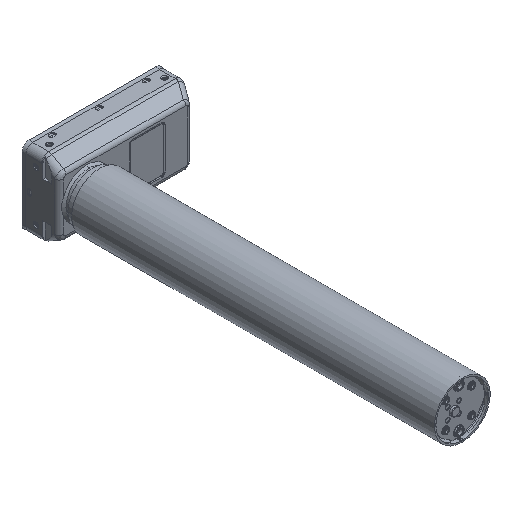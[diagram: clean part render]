
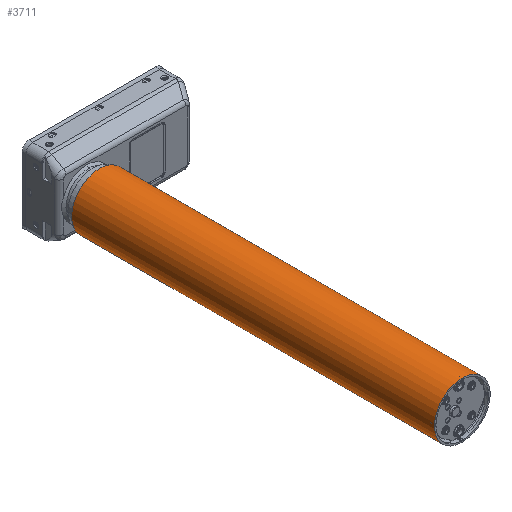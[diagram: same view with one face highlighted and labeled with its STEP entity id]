
A CAD part, isometric view. The second image highlights one B-rep face of the part: STEP entity #3711.
In plain terms, the highlighted cylindrical face has radius 35 mm (diameter 70 mm), a partial arc.
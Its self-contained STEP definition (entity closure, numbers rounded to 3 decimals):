
#93=CARTESIAN_POINT('',(0.,-23.,0.));
#94=DIRECTION('',(0.,1.,0.));
#95=DIRECTION('',(-0.707,0.,-0.707));
#96=AXIS2_PLACEMENT_3D('',#93,#94,#95);
#139=DIRECTION('',(0.,-1.,0.));
#140=VECTOR('',#139,456.);
#141=CARTESIAN_POINT('',(-24.749,-23.,-24.749));
#142=LINE('',#141,#140);
#146=DIRECTION('',(0.,1.,0.));
#147=VECTOR('',#146,456.);
#148=CARTESIAN_POINT('',(24.749,-479.,24.749));
#149=LINE('',#148,#147);
#153=CARTESIAN_POINT('',(0.,-479.,0.));
#154=DIRECTION('',(0.,1.,0.));
#155=DIRECTION('',(-0.707,0.,-0.707));
#156=AXIS2_PLACEMENT_3D('',#153,#154,#155);
#3135=CARTESIAN_POINT('',(-24.749,-479.,-24.749));
#3136=CARTESIAN_POINT('',(24.749,-479.,24.749));
#3137=VERTEX_POINT('',#3135);
#3138=VERTEX_POINT('',#3136);
#3224=CARTESIAN_POINT('',(-24.749,-23.,-24.749));
#3225=CARTESIAN_POINT('',(24.749,-23.,24.749));
#3226=VERTEX_POINT('',#3224);
#3227=VERTEX_POINT('',#3225);
#3697=CARTESIAN_POINT('',(0.,-10.,0.));
#3698=DIRECTION('',(0.,1.,0.));
#3699=DIRECTION('',(-1.,0.,0.));
#3700=AXIS2_PLACEMENT_3D('',#3697,#3698,#3699);
#3701=CYLINDRICAL_SURFACE('',#3700,35.);
#3703=ORIENTED_EDGE('',*,*,#3702,.F.);
#3705=ORIENTED_EDGE('',*,*,#3704,.F.);
#3707=ORIENTED_EDGE('',*,*,#3706,.F.);
#3708=ORIENTED_EDGE('',*,*,#3646,.T.);
#3709=EDGE_LOOP('',(#3703,#3705,#3707,#3708));
#3710=FACE_OUTER_BOUND('',#3709,.F.);
#97=CIRCLE('',#96,35.);
#157=CIRCLE('',#156,35.);
#3646=EDGE_CURVE('',#3226,#3227,#97,.T.);
#3702=EDGE_CURVE('',#3138,#3227,#149,.T.);
#3704=EDGE_CURVE('',#3137,#3138,#157,.T.);
#3706=EDGE_CURVE('',#3226,#3137,#142,.T.);
#3711=ADVANCED_FACE('',(#3710),#3701,.T.);
